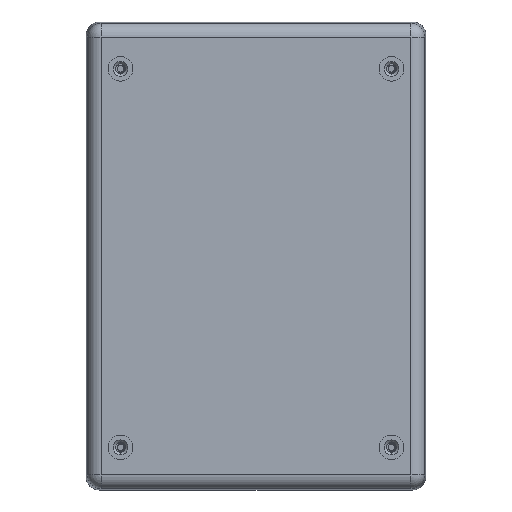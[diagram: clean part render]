
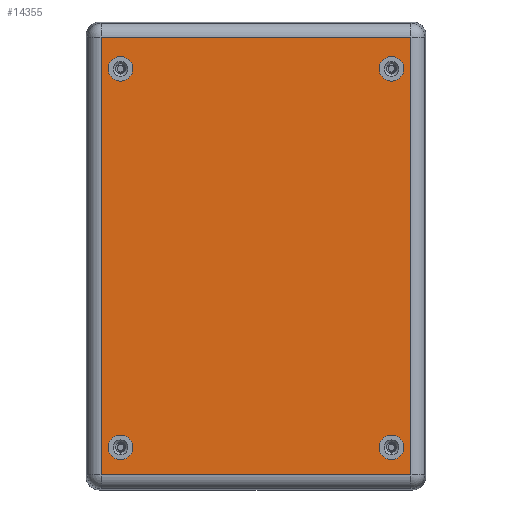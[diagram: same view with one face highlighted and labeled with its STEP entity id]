
A CAD part, front view. The second image highlights one B-rep face of the part: STEP entity #14355.
In plain terms, the highlighted planar face has unit normal (0, -1, 0).
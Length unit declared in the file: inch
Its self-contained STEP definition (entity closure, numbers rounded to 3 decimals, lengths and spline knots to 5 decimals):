
#19 = CARTESIAN_POINT ( 'NONE',  ( -2.16535, -0.88583, -3.25591 ) ) ;
#154 = CARTESIAN_POINT ( 'NONE',  ( -2.16535, -0.88583, 2.99213 ) ) ;
#171 = VERTEX_POINT ( 'NONE', #9142 ) ;
#297 = VERTEX_POINT ( 'NONE', #10519 ) ;
#393 = VECTOR ( 'NONE', #13509, 39.37008 ) ;
#463 = AXIS2_PLACEMENT_3D ( 'NONE', #12448, #2699, #7468 ) ;
#596 = DIRECTION ( 'NONE',  ( 0., 0., -1. ) ) ;
#743 = CARTESIAN_POINT ( 'NONE',  ( 0., -0.88583, 0. ) ) ;
#797 = DIRECTION ( 'NONE',  ( 0., -1., 0. ) ) ;
#830 = ORIENTED_EDGE ( 'NONE', *, *, #15840, .T. ) ;
#982 = CIRCLE ( 'NONE', #1463, 0.19685 ) ;
#1151 = ORIENTED_EDGE ( 'NONE', *, *, #10089, .F. ) ;
#1198 = FACE_OUTER_BOUND ( 'NONE', #10445, .T. ) ;
#1285 = CIRCLE ( 'NONE', #463, 0.19685 ) ;
#1463 = AXIS2_PLACEMENT_3D ( 'NONE', #8987, #10222, #2860 ) ;
#1611 = DIRECTION ( 'NONE',  ( -1., 0., 0. ) ) ;
#1959 = FACE_BOUND ( 'NONE', #3271, .T. ) ;
#2337 = AXIS2_PLACEMENT_3D ( 'NONE', #2955, #13968, #11548 ) ;
#2338 = CARTESIAN_POINT ( 'NONE',  ( 2.4765, -0.88583, 0. ) ) ;
#2678 = LINE ( 'NONE', #2338, #393 ) ;
#2680 = VERTEX_POINT ( 'NONE', #4303 ) ;
#2699 = DIRECTION ( 'NONE',  ( 0., -1., 0. ) ) ;
#2706 = VERTEX_POINT ( 'NONE', #9653 ) ;
#2762 = LINE ( 'NONE', #8445, #10835 ) ;
#2827 = EDGE_CURVE ( 'NONE', #3542, #2706, #12617, .T. ) ;
#2860 = DIRECTION ( 'NONE',  ( 0., 0., -1. ) ) ;
#2955 = CARTESIAN_POINT ( 'NONE',  ( 2.16535, -0.88583, 2.99213 ) ) ;
#3012 = VECTOR ( 'NONE', #1611, 39.37008 ) ;
#3013 = EDGE_CURVE ( 'NONE', #2706, #3542, #14700, .T. ) ;
#3249 = LINE ( 'NONE', #14146, #9025 ) ;
#3271 = EDGE_LOOP ( 'NONE', ( #6475, #6767 ) ) ;
#3461 = DIRECTION ( 'NONE',  ( 0., 0., -1. ) ) ;
#3527 = VERTEX_POINT ( 'NONE', #14970 ) ;
#3535 = EDGE_CURVE ( 'NONE', #3527, #12254, #11851, .T. ) ;
#3542 = VERTEX_POINT ( 'NONE', #4041 ) ;
#3581 = ORIENTED_EDGE ( 'NONE', *, *, #3535, .T. ) ;
#3689 = CARTESIAN_POINT ( 'NONE',  ( 2.16535, -0.88583, 2.99213 ) ) ;
#4041 = CARTESIAN_POINT ( 'NONE',  ( -2.16535, -0.88583, 2.79528 ) ) ;
#4255 = DIRECTION ( 'NONE',  ( 0., 0., -1. ) ) ;
#4303 = CARTESIAN_POINT ( 'NONE',  ( 2.16535, -0.88583, -2.8622 ) ) ;
#4363 = EDGE_LOOP ( 'NONE', ( #7146, #12708 ) ) ;
#4414 = VERTEX_POINT ( 'NONE', #6319 ) ;
#4504 = DIRECTION ( 'NONE',  ( 0., -1., 0. ) ) ;
#4667 = DIRECTION ( 'NONE',  ( 1., 0., 0. ) ) ;
#4814 = DIRECTION ( 'NONE',  ( 0., -1., 0. ) ) ;
#4925 = DIRECTION ( 'NONE',  ( 0., -1., 0. ) ) ;
#6179 = DIRECTION ( 'NONE',  ( 0., 0., -1. ) ) ;
#6317 = EDGE_CURVE ( 'NONE', #4414, #7755, #13687, .T. ) ;
#6319 = CARTESIAN_POINT ( 'NONE',  ( 2.16535, -0.88583, 3.18898 ) ) ;
#6475 = ORIENTED_EDGE ( 'NONE', *, *, #14610, .F. ) ;
#6536 = DIRECTION ( 'NONE',  ( 0., -1., 0. ) ) ;
#6642 = CARTESIAN_POINT ( 'NONE',  ( -2.16535, -0.88583, -3.05906 ) ) ;
#6767 = ORIENTED_EDGE ( 'NONE', *, *, #6317, .F. ) ;
#7142 = FACE_BOUND ( 'NONE', #4363, .T. ) ;
#7146 = ORIENTED_EDGE ( 'NONE', *, *, #15030, .F. ) ;
#7191 = AXIS2_PLACEMENT_3D ( 'NONE', #743, #4504, #12983 ) ;
#7242 = CIRCLE ( 'NONE', #13963, 0.19685 ) ;
#7323 = FACE_BOUND ( 'NONE', #7547, .T. ) ;
#7468 = DIRECTION ( 'NONE',  ( 0., 0., -1. ) ) ;
#7546 = EDGE_LOOP ( 'NONE', ( #1151, #8782 ) ) ;
#7547 = EDGE_LOOP ( 'NONE', ( #8262, #8476 ) ) ;
#7574 = AXIS2_PLACEMENT_3D ( 'NONE', #154, #4925, #11121 ) ;
#7755 = VERTEX_POINT ( 'NONE', #10186 ) ;
#8102 = VERTEX_POINT ( 'NONE', #11956 ) ;
#8262 = ORIENTED_EDGE ( 'NONE', *, *, #2827, .F. ) ;
#8445 = CARTESIAN_POINT ( 'NONE',  ( 0., -0.88583, -3.50012 ) ) ;
#8476 = ORIENTED_EDGE ( 'NONE', *, *, #3013, .F. ) ;
#8782 = ORIENTED_EDGE ( 'NONE', *, *, #10610, .F. ) ;
#8922 = EDGE_CURVE ( 'NONE', #2680, #14139, #982, .T. ) ;
#8987 = CARTESIAN_POINT ( 'NONE',  ( 2.16535, -0.88583, -3.05906 ) ) ;
#9025 = VECTOR ( 'NONE', #596, 39.37008 ) ;
#9062 = AXIS2_PLACEMENT_3D ( 'NONE', #12002, #14432, #3461 ) ;
#9142 = CARTESIAN_POINT ( 'NONE',  ( 2.4765, -0.88583, -3.50012 ) ) ;
#9240 = CIRCLE ( 'NONE', #9062, 0.19685 ) ;
#9366 = CARTESIAN_POINT ( 'NONE',  ( -2.16535, -0.88583, 2.99213 ) ) ;
#9653 = CARTESIAN_POINT ( 'NONE',  ( -2.16535, -0.88583, 3.18898 ) ) ;
#10089 = EDGE_CURVE ( 'NONE', #10233, #8102, #7242, .T. ) ;
#10186 = CARTESIAN_POINT ( 'NONE',  ( 2.16535, -0.88583, 2.79528 ) ) ;
#10222 = DIRECTION ( 'NONE',  ( 0., -1., 0. ) ) ;
#10233 = VERTEX_POINT ( 'NONE', #19 ) ;
#10348 = AXIS2_PLACEMENT_3D ( 'NONE', #9366, #797, #15376 ) ;
#10445 = EDGE_LOOP ( 'NONE', ( #830, #3581, #15556, #15114 ) ) ;
#10519 = CARTESIAN_POINT ( 'NONE',  ( -2.4765, -0.88583, -3.50012 ) ) ;
#10610 = EDGE_CURVE ( 'NONE', #8102, #10233, #1285, .T. ) ;
#10835 = VECTOR ( 'NONE', #4667, 39.37008 ) ;
#11121 = DIRECTION ( 'NONE',  ( 0., 0., -1. ) ) ;
#11548 = DIRECTION ( 'NONE',  ( 0., 0., -1. ) ) ;
#11851 = LINE ( 'NONE', #13746, #3012 ) ;
#11956 = CARTESIAN_POINT ( 'NONE',  ( -2.16535, -0.88583, -2.8622 ) ) ;
#12002 = CARTESIAN_POINT ( 'NONE',  ( 2.16535, -0.88583, -3.05906 ) ) ;
#12190 = EDGE_CURVE ( 'NONE', #297, #171, #2762, .T. ) ;
#12254 = VERTEX_POINT ( 'NONE', #15644 ) ;
#12448 = CARTESIAN_POINT ( 'NONE',  ( -2.16535, -0.88583, -3.05906 ) ) ;
#12617 = CIRCLE ( 'NONE', #7574, 0.19685 ) ;
#12708 = ORIENTED_EDGE ( 'NONE', *, *, #8922, .F. ) ;
#12983 = DIRECTION ( 'NONE',  ( 0., 0., -1. ) ) ;
#13068 = FACE_BOUND ( 'NONE', #7546, .T. ) ;
#13509 = DIRECTION ( 'NONE',  ( 0., 0., 1. ) ) ;
#13687 = CIRCLE ( 'NONE', #2337, 0.19685 ) ;
#13745 = AXIS2_PLACEMENT_3D ( 'NONE', #3689, #4814, #6179 ) ;
#13746 = CARTESIAN_POINT ( 'NONE',  ( 0., -0.88583, 3.50012 ) ) ;
#13963 = AXIS2_PLACEMENT_3D ( 'NONE', #6642, #6536, #4255 ) ;
#13968 = DIRECTION ( 'NONE',  ( 0., -1., 0. ) ) ;
#14139 = VERTEX_POINT ( 'NONE', #14848 ) ;
#14146 = CARTESIAN_POINT ( 'NONE',  ( -2.4765, -0.88583, 0. ) ) ;
#14193 = PLANE ( 'NONE',  #7191 ) ;
#14355 = ADVANCED_FACE ( 'NONE', ( #1959, #7142, #13068, #7323, #1198 ), #14193, .T. ) ;
#14432 = DIRECTION ( 'NONE',  ( 0., -1., 0. ) ) ;
#14610 = EDGE_CURVE ( 'NONE', #7755, #4414, #15346, .T. ) ;
#14700 = CIRCLE ( 'NONE', #10348, 0.19685 ) ;
#14848 = CARTESIAN_POINT ( 'NONE',  ( 2.16535, -0.88583, -3.25591 ) ) ;
#14970 = CARTESIAN_POINT ( 'NONE',  ( 2.4765, -0.88583, 3.50012 ) ) ;
#15030 = EDGE_CURVE ( 'NONE', #14139, #2680, #9240, .T. ) ;
#15114 = ORIENTED_EDGE ( 'NONE', *, *, #12190, .T. ) ;
#15346 = CIRCLE ( 'NONE', #13745, 0.19685 ) ;
#15376 = DIRECTION ( 'NONE',  ( 0., 0., -1. ) ) ;
#15556 = ORIENTED_EDGE ( 'NONE', *, *, #15571, .T. ) ;
#15571 = EDGE_CURVE ( 'NONE', #12254, #297, #3249, .T. ) ;
#15644 = CARTESIAN_POINT ( 'NONE',  ( -2.4765, -0.88583, 3.50012 ) ) ;
#15840 = EDGE_CURVE ( 'NONE', #171, #3527, #2678, .T. ) ;
